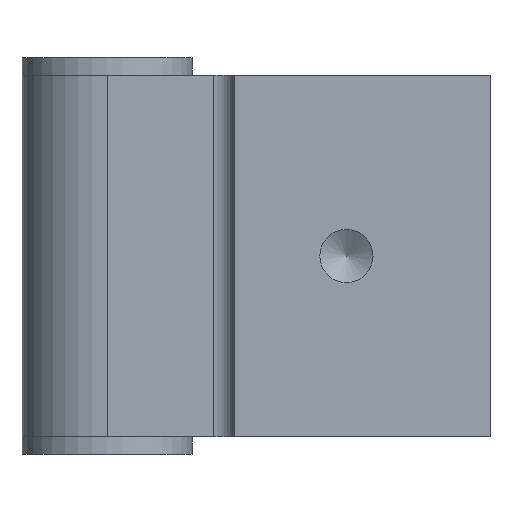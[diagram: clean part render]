
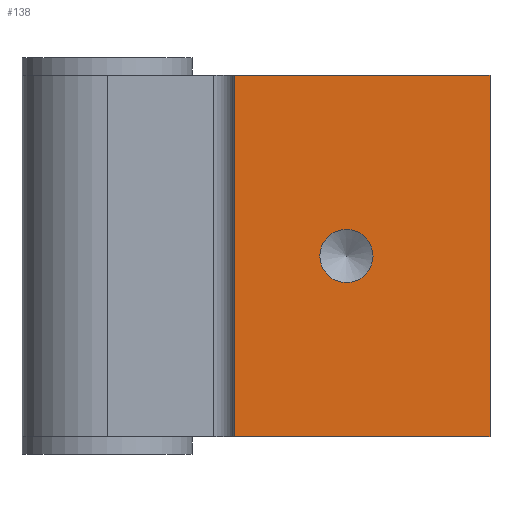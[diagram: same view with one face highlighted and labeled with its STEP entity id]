
A CAD part, front view. The second image highlights one B-rep face of the part: STEP entity #138.
In plain terms, the highlighted planar face has unit normal (0, -1, 0).
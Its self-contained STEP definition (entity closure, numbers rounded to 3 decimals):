
#11 = ORIENTED_EDGE ( 'NONE', *, *, #362, .F. ) ;
#12 = LINE ( 'NONE', #563, #376 ) ;
#13 = ORIENTED_EDGE ( 'NONE', *, *, #70, .F. ) ;
#24 = ORIENTED_EDGE ( 'NONE', *, *, #426, .T. ) ;
#41 = DIRECTION ( 'NONE',  ( 0., 0., -1. ) ) ;
#52 = VERTEX_POINT ( 'NONE', #91 ) ;
#70 = EDGE_CURVE ( 'NONE', #598, #126, #574, .T. ) ;
#77 = AXIS2_PLACEMENT_3D ( 'NONE', #337, #694, #596 ) ;
#80 = CARTESIAN_POINT ( 'NONE',  ( 36., -18., 17. ) ) ;
#85 = DIRECTION ( 'NONE',  ( 0., 0., -1. ) ) ;
#91 = CARTESIAN_POINT ( 'NONE',  ( 12., -18., -17. ) ) ;
#126 = VERTEX_POINT ( 'NONE', #280 ) ;
#137 = VERTEX_POINT ( 'NONE', #377 ) ;
#138 = ADVANCED_FACE ( 'NONE', ( #285, #483 ), #274, .F. ) ;
#171 = LINE ( 'NONE', #658, #294 ) ;
#179 = CARTESIAN_POINT ( 'NONE',  ( 36., -18., 17. ) ) ;
#185 = DIRECTION ( 'NONE',  ( 1., 0., 0. ) ) ;
#219 = VECTOR ( 'NONE', #275, 1000. ) ;
#250 = EDGE_LOOP ( 'NONE', ( #24, #13, #456, #435 ) ) ;
#271 = CARTESIAN_POINT ( 'NONE',  ( 36., -18., -17. ) ) ;
#274 = PLANE ( 'NONE',  #77 ) ;
#275 = DIRECTION ( 'NONE',  ( 1., 0., 0. ) ) ;
#280 = CARTESIAN_POINT ( 'NONE',  ( 36., -18., -17. ) ) ;
#285 = FACE_BOUND ( 'NONE', #617, .T. ) ;
#292 = AXIS2_PLACEMENT_3D ( 'NONE', #487, #328, #41 ) ;
#294 = VECTOR ( 'NONE', #185, 1000. ) ;
#328 = DIRECTION ( 'NONE',  ( 0., -1., 0. ) ) ;
#337 = CARTESIAN_POINT ( 'NONE',  ( 36., -18., 17. ) ) ;
#362 = EDGE_CURVE ( 'NONE', #634, #634, #423, .T. ) ;
#376 = VECTOR ( 'NONE', #672, 1000. ) ;
#377 = CARTESIAN_POINT ( 'NONE',  ( 12., -18., 17. ) ) ;
#423 = CIRCLE ( 'NONE', #292, 2.5 ) ;
#425 = VECTOR ( 'NONE', #85, 1000. ) ;
#426 = EDGE_CURVE ( 'NONE', #52, #126, #440, .T. ) ;
#435 = ORIENTED_EDGE ( 'NONE', *, *, #652, .T. ) ;
#440 = LINE ( 'NONE', #271, #219 ) ;
#456 = ORIENTED_EDGE ( 'NONE', *, *, #556, .F. ) ;
#483 = FACE_OUTER_BOUND ( 'NONE', #250, .T. ) ;
#487 = CARTESIAN_POINT ( 'NONE',  ( 22.5, -18., 0. ) ) ;
#556 = EDGE_CURVE ( 'NONE', #137, #598, #171, .T. ) ;
#563 = CARTESIAN_POINT ( 'NONE',  ( 12., -18., 17. ) ) ;
#574 = LINE ( 'NONE', #80, #425 ) ;
#596 = DIRECTION ( 'NONE',  ( -1., 0., 0. ) ) ;
#598 = VERTEX_POINT ( 'NONE', #179 ) ;
#617 = EDGE_LOOP ( 'NONE', ( #11 ) ) ;
#634 = VERTEX_POINT ( 'NONE', #636 ) ;
#636 = CARTESIAN_POINT ( 'NONE',  ( 22.5, -18., -2.5 ) ) ;
#652 = EDGE_CURVE ( 'NONE', #137, #52, #12, .T. ) ;
#658 = CARTESIAN_POINT ( 'NONE',  ( 36., -18., 17. ) ) ;
#672 = DIRECTION ( 'NONE',  ( 0., 0., -1. ) ) ;
#694 = DIRECTION ( 'NONE',  ( 0., 1., 0. ) ) ;
